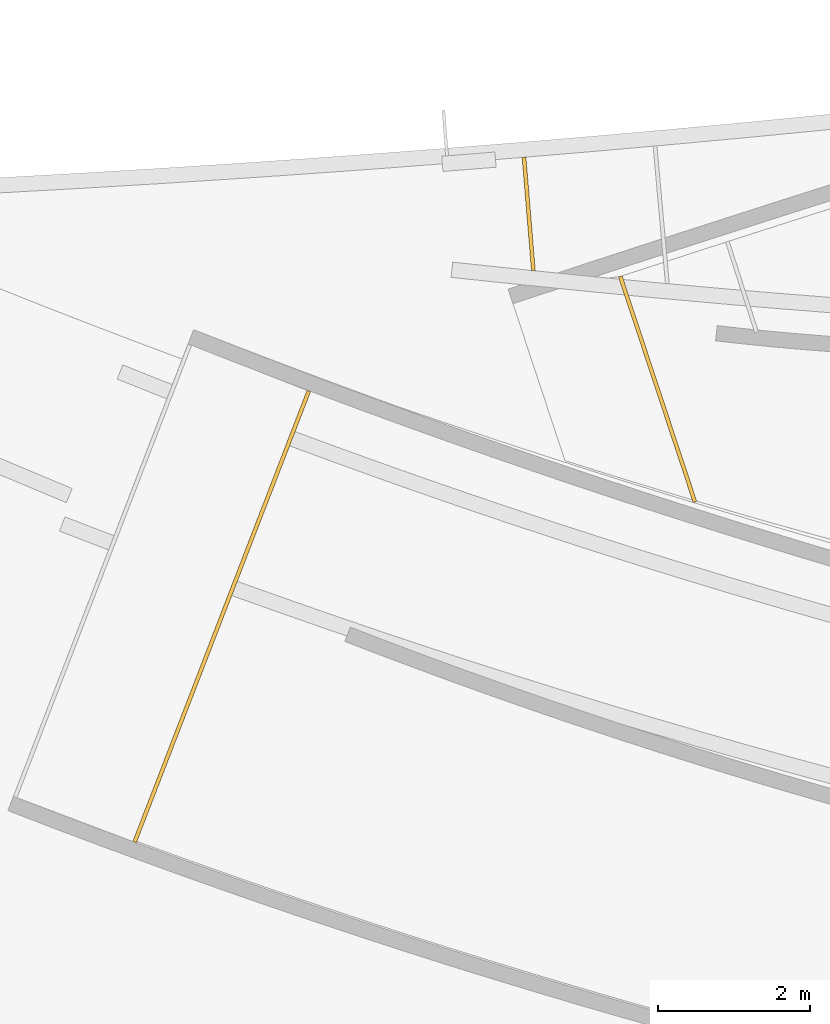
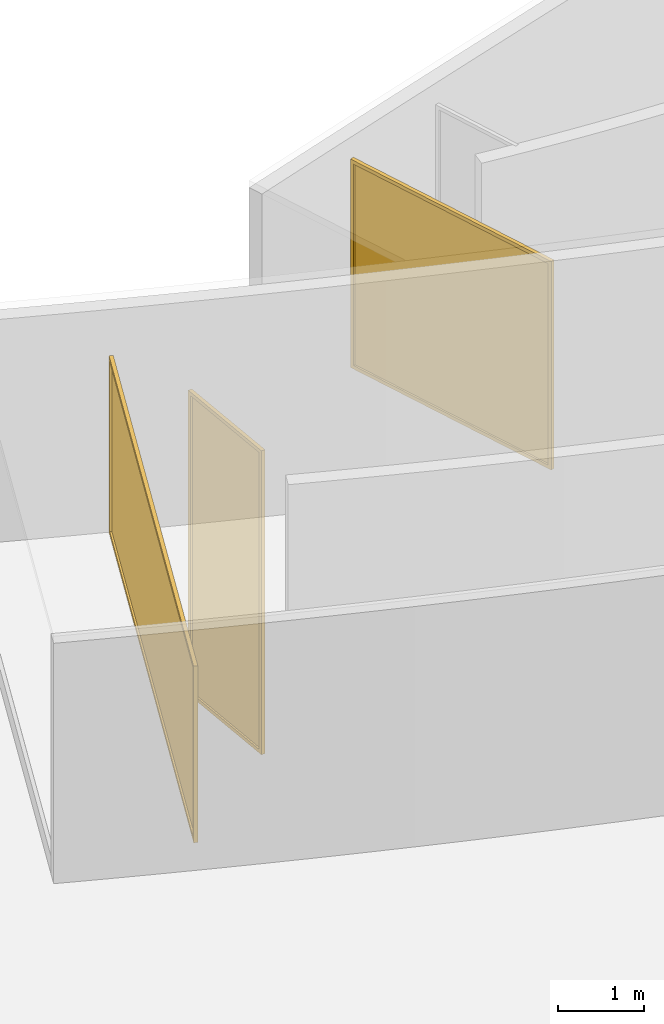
# Not in any storey, part 9 of 16: 3 curtain walls.
"""IFC2X3 model written with IfcOpenShell, lengths in millimetres."""

from ifc_helpers import new_model, entity, si_unit, converted_unit, direction, origin_with_axes, place, context, project, spatial, open_shell, faceted_brep, surface_model, source, transform, mapped, type_object, element, save


model = new_model("IFC2X3")

# Units and contexts
model_context = context("Model", 3, precision=1.0, world=origin_with_axes(), true_north=direction((0.0, 1.0)))
ifc_project = project(units=[converted_unit("PLANEANGLEUNIT", "DEGREE", entity("IfcRatioMeasure", 0.017453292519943), si_unit("PLANEANGLEUNIT", "RADIAN"), dimensions=[0, 0, 0, 0, 0, 0, 0]), si_unit("LENGTHUNIT", "METRE", prefix="MILLI")], contexts=[model_context])

# Site
site_placement = place(None, origin_with_axes())
site = spatial("IfcSite", under=ifc_project, at=site_placement, Name="Site", CompositionType="ELEMENT")

# Curtain walls
curtain_wall_type = type_object("IfcCurtainWallType", Name="Single Panel", PredefinedType="USERDEFINED")
shared_shape_1 = source(origin_with_axes(), model_context, "Body", "Brep", [
    faceted_brep([(-46210.36328125, -3783.9609375, 9020.0), (-46185.44921875, -3781.908203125, 9020.0), (-46160.53125, -3779.85522460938, 9020.0), (-46191.17578125, -3407.9453125, 9020.0), (-46221.81640625, -3036.03540039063, 9020.0), (-46252.45703125, -2664.12548828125, 9020.0), (-46283.09765625, -2292.21557617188, 9020.0), (-46308.015625, -2294.2685546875, 9020.0), (-46332.9296875, -2296.3212890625, 9020.0), (-46302.2890625, -2668.23120117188, 9020.0), (-46271.6484375, -3040.14111328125, 9020.0), (-46241.00390625, -3412.05102539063, 9020.0), (-46160.53125, -3779.85522460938, 8970.0), (-46185.44921875, -3781.908203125, 8970.0), (-46210.36328125, -3783.9609375, 8970.0), (-46214.46875, -3734.12963867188, 8970.0), (-46243.05859375, -3387.13549804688, 8970.0), (-46271.6484375, -3040.14111328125, 8970.0), (-46300.234375, -2693.14672851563, 8970.0), (-46328.82421875, -2346.15234375, 8970.0), (-46332.9296875, -2296.3212890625, 8970.0), (-46308.015625, -2294.2685546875, 8970.0), (-46283.09765625, -2292.21557617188, 8970.0), (-46278.9921875, -2342.046875, 8970.0), (-46250.40625, -2689.04125976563, 8970.0), (-46221.81640625, -3036.03540039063, 8970.0), (-46193.2265625, -3383.02978515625, 8970.0), (-46164.63671875, -3730.02416992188, 8970.0), (-46210.36328125, -3783.9609375, 8970.0), (-46210.36328125, -3783.9609375, 9020.0), (-46241.00390625, -3412.05102539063, 9020.0), (-46271.6484375, -3040.14111328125, 9020.0), (-46302.2890625, -2668.23120117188, 9020.0), (-46332.9296875, -2296.3212890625, 9020.0), (-46332.9296875, -2296.3212890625, 8970.0), (-46328.82421875, -2346.15234375, 8970.0), (-46300.234375, -2693.14672851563, 8970.0), (-46271.6484375, -3040.14111328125, 8970.0), (-46243.05859375, -3387.13549804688, 8970.0), (-46214.46875, -3734.12963867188, 8970.0), (-46160.53125, -3779.85522460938, 9020.0), (-46160.53125, -3779.85522460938, 8970.0), (-46164.63671875, -3730.02416992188, 8970.0), (-46193.2265625, -3383.02978515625, 8970.0), (-46221.81640625, -3036.03540039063, 8970.0), (-46250.40625, -2689.04125976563, 8970.0), (-46278.9921875, -2342.046875, 8970.0), (-46283.09765625, -2292.21557617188, 8970.0), (-46283.09765625, -2292.21557617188, 9020.0), (-46252.45703125, -2664.12548828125, 9020.0), (-46221.81640625, -3036.03540039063, 9020.0), (-46191.17578125, -3407.9453125, 9020.0), (-46332.9296875, -2296.3212890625, 8970.0), (-46332.9296875, -2296.3212890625, 9020.0), (-46308.015625, -2294.2685546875, 9020.0), (-46283.09765625, -2292.21557617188, 9020.0), (-46283.09765625, -2292.21557617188, 8970.0), (-46308.015625, -2294.2685546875, 8970.0), (-46210.36328125, -3783.9609375, 9020.0), (-46210.36328125, -3783.9609375, 8970.0), (-46185.44921875, -3781.908203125, 8970.0), (-46160.53125, -3779.85522460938, 8970.0), (-46160.53125, -3779.85522460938, 9020.0), (-46185.44921875, -3781.908203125, 9020.0)], [[[0, 1, 2, 3, 4, 5, 6, 7, 8, 9, 10, 11]], [[12, 13, 14, 15, 16, 17, 18, 19, 20, 21, 22, 23, 24, 25, 26, 27]], [[28, 29, 30, 31, 32, 33, 34, 35, 36, 37, 38, 39]], [[40, 41, 42, 43, 44, 45, 46, 47, 48, 49, 50, 51]], [[52, 53, 54, 55, 56, 57]], [[58, 59, 60, 61, 62, 63]]]),
    faceted_brep([(-46160.53125, -3779.85522460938, 4720.0), (-46185.44921875, -3781.908203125, 4720.0), (-46210.36328125, -3783.9609375, 4720.0), (-46241.00390625, -3412.05102539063, 4720.0), (-46271.6484375, -3040.14111328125, 4720.0), (-46302.2890625, -2668.23120117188, 4720.0), (-46332.9296875, -2296.3212890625, 4720.0), (-46308.015625, -2294.2685546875, 4720.0), (-46283.09765625, -2292.21557617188, 4720.0), (-46252.45703125, -2664.12548828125, 4720.0), (-46221.81640625, -3036.03540039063, 4720.0), (-46191.17578125, -3407.9453125, 4720.0), (-46210.36328125, -3783.9609375, 4770.0), (-46185.44921875, -3781.908203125, 4770.0), (-46160.53125, -3779.85522460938, 4770.0), (-46164.63671875, -3730.02416992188, 4770.0), (-46193.2265625, -3383.02978515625, 4770.0), (-46221.81640625, -3036.03540039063, 4770.0), (-46250.40625, -2689.04125976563, 4770.0), (-46278.9921875, -2342.046875, 4770.0), (-46283.09765625, -2292.21557617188, 4770.0), (-46308.015625, -2294.2685546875, 4770.0), (-46332.9296875, -2296.3212890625, 4770.0), (-46328.82421875, -2346.15234375, 4770.0), (-46300.234375, -2693.14672851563, 4770.0), (-46271.6484375, -3040.14111328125, 4770.0), (-46243.05859375, -3387.13549804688, 4770.0), (-46214.46875, -3734.12963867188, 4770.0), (-46160.53125, -3779.85522460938, 4770.0), (-46160.53125, -3779.85522460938, 4720.0), (-46191.17578125, -3407.9453125, 4720.0), (-46221.81640625, -3036.03540039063, 4720.0), (-46252.45703125, -2664.12548828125, 4720.0), (-46283.09765625, -2292.21557617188, 4720.0), (-46283.09765625, -2292.21557617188, 4770.0), (-46278.9921875, -2342.046875, 4770.0), (-46250.40625, -2689.04125976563, 4770.0), (-46221.81640625, -3036.03540039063, 4770.0), (-46193.2265625, -3383.02978515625, 4770.0), (-46164.63671875, -3730.02416992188, 4770.0), (-46283.09765625, -2292.21557617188, 4770.0), (-46283.09765625, -2292.21557617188, 4720.0), (-46308.015625, -2294.2685546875, 4720.0), (-46332.9296875, -2296.3212890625, 4720.0), (-46332.9296875, -2296.3212890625, 4770.0), (-46308.015625, -2294.2685546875, 4770.0), (-46210.36328125, -3783.9609375, 4720.0), (-46210.36328125, -3783.9609375, 4770.0), (-46214.46875, -3734.12963867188, 4770.0), (-46243.05859375, -3387.13549804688, 4770.0), (-46271.6484375, -3040.14111328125, 4770.0), (-46300.234375, -2693.14672851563, 4770.0), (-46328.82421875, -2346.15234375, 4770.0), (-46332.9296875, -2296.3212890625, 4770.0), (-46332.9296875, -2296.3212890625, 4720.0), (-46302.2890625, -2668.23120117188, 4720.0), (-46271.6484375, -3040.14111328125, 4720.0), (-46241.00390625, -3412.05102539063, 4720.0), (-46160.53125, -3779.85522460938, 4720.0), (-46160.53125, -3779.85522460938, 4770.0), (-46185.44921875, -3781.908203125, 4770.0), (-46210.36328125, -3783.9609375, 4770.0), (-46210.36328125, -3783.9609375, 4720.0), (-46185.44921875, -3781.908203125, 4720.0)], [[[0, 1, 2, 3, 4, 5, 6, 7, 8, 9, 10, 11]], [[12, 13, 14, 15, 16, 17, 18, 19, 20, 21, 22, 23, 24, 25, 26, 27]], [[28, 29, 30, 31, 32, 33, 34, 35, 36, 37, 38, 39]], [[40, 41, 42, 43, 44, 45]], [[46, 47, 48, 49, 50, 51, 52, 53, 54, 55, 56, 57]], [[58, 59, 60, 61, 62, 63]]]),
    faceted_brep([(-46214.46875, -3734.12963867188, 4770.0), (-46164.63671875, -3730.02416992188, 4770.0), (-46160.53125, -3779.85522460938, 4770.0), (-46185.44921875, -3781.908203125, 4770.0), (-46210.36328125, -3783.9609375, 4770.0), (-46164.63671875, -3730.02416992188, 4770.0), (-46214.46875, -3734.12963867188, 4770.0), (-46214.46875, -3734.12963867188, 6870.0), (-46214.46875, -3734.12963867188, 8970.0), (-46164.63671875, -3730.02416992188, 8970.0), (-46164.63671875, -3730.02416992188, 6870.0), (-46210.36328125, -3783.9609375, 4770.0), (-46185.44921875, -3781.908203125, 4770.0), (-46160.53125, -3779.85522460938, 4770.0), (-46160.53125, -3779.85522460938, 6870.0), (-46160.53125, -3779.85522460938, 8970.0), (-46185.44921875, -3781.908203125, 8970.0), (-46210.36328125, -3783.9609375, 8970.0), (-46210.36328125, -3783.9609375, 6870.0), (-46214.46875, -3734.12963867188, 4770.0), (-46210.36328125, -3783.9609375, 4770.0), (-46210.36328125, -3783.9609375, 6870.0), (-46210.36328125, -3783.9609375, 8970.0), (-46214.46875, -3734.12963867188, 8970.0), (-46214.46875, -3734.12963867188, 6870.0), (-46160.53125, -3779.85522460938, 4770.0), (-46164.63671875, -3730.02416992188, 4770.0), (-46164.63671875, -3730.02416992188, 6870.0), (-46164.63671875, -3730.02416992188, 8970.0), (-46160.53125, -3779.85522460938, 8970.0), (-46160.53125, -3779.85522460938, 6870.0), (-46164.63671875, -3730.02416992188, 8970.0), (-46214.46875, -3734.12963867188, 8970.0), (-46210.36328125, -3783.9609375, 8970.0), (-46185.44921875, -3781.908203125, 8970.0), (-46160.53125, -3779.85522460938, 8970.0)], [[[0, 1, 2, 3, 4]], [[5, 6, 7, 8, 9, 10]], [[11, 12, 13, 14, 15, 16, 17, 18]], [[19, 20, 21, 22, 23, 24]], [[25, 26, 27, 28, 29, 30]], [[31, 32, 33, 34, 35]]]),
    faceted_brep([(-46278.9921875, -2342.046875, 4770.0), (-46283.09765625, -2292.21557617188, 4770.0), (-46283.09765625, -2292.21557617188, 6870.0), (-46283.09765625, -2292.21557617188, 8970.0), (-46278.9921875, -2342.046875, 8970.0), (-46278.9921875, -2342.046875, 6870.0), (-46283.09765625, -2292.21557617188, 4770.0), (-46332.9296875, -2296.3212890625, 4770.0), (-46332.9296875, -2296.3212890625, 6870.0), (-46332.9296875, -2296.3212890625, 8970.0), (-46283.09765625, -2292.21557617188, 8970.0), (-46283.09765625, -2292.21557617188, 6870.0), (-46328.82421875, -2346.15234375, 4770.0), (-46278.9921875, -2342.046875, 4770.0), (-46278.9921875, -2342.046875, 6870.0), (-46278.9921875, -2342.046875, 8970.0), (-46328.82421875, -2346.15234375, 8970.0), (-46328.82421875, -2346.15234375, 6870.0), (-46332.9296875, -2296.3212890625, 4770.0), (-46328.82421875, -2346.15234375, 4770.0), (-46328.82421875, -2346.15234375, 6870.0), (-46328.82421875, -2346.15234375, 8970.0), (-46332.9296875, -2296.3212890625, 8970.0), (-46332.9296875, -2296.3212890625, 6870.0), (-46328.82421875, -2346.15234375, 8970.0), (-46278.9921875, -2342.046875, 8970.0), (-46283.09765625, -2292.21557617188, 8970.0), (-46332.9296875, -2296.3212890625, 8970.0), (-46278.9921875, -2342.046875, 4770.0), (-46328.82421875, -2346.15234375, 4770.0), (-46332.9296875, -2296.3212890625, 4770.0), (-46283.09765625, -2292.21557617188, 4770.0)], [[[0, 1, 2, 3, 4, 5]], [[6, 7, 8, 9, 10, 11]], [[12, 13, 14, 15, 16, 17]], [[18, 19, 20, 21, 22, 23]], [[24, 25, 26, 27]], [[28, 29, 30, 31]]]),
])
shared_shape_2 = source(origin_with_axes(), model_context, "Body", "SurfaceModel", [
    surface_model("IfcShellBasedSurfaceModel", [(0.0, 0.0, 4200.0), (0.0, 0.0, 0.0), (1392.68029785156, 0.0, 0.0), (1392.68029785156, 0.0, 4200.0)], [open_shell([[[0, 1, 2, 3]]])]),
])
shared_shape_3 = source(origin_with_axes(), model_context, "Body", "MappedRepresentation", [
    mapped(shared_shape_1, transform((0.0, 0.0, 0.0))),
    mapped(shared_shape_2, transform((-46189.5533571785, -3732.07693644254, 4770.0), x_axis=(-0.08211225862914, 0.99662308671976, 0.0), y_axis=(-0.99662308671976, -0.08211225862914, 0.0), scale=0.999999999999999)),
])
curtain_wall_1_placement = place(site_placement, origin_with_axes())
element("IfcCurtainWall", 1, at=curtain_wall_1_placement, inside=site, type_object=curtain_wall_type, ObjectType="Single Panel", context=model_context, shape_type="MappedRepresentation", body=[
    mapped(shared_shape_3, transform((0.0, 0.0, 0.0))),
])
shared_shape_4 = source(origin_with_axes(), model_context, "Body", "SurfaceModel", [
    surface_model("IfcShellBasedSurfaceModel", [(0.0, 0.0, 2850.0), (0.0, 0.0, 0.0), (3018.27905273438, 0.0, 0.0), (3018.27905273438, 0.0, 2850.0)], [open_shell([[[0, 1, 2, 3]]])]),
])
shared_shape_5 = source(origin_with_axes(), model_context, "Body", "Brep", [
    faceted_brep([(-45052.4375, -3913.07446289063, 9900.0), (-45004.96875, -3897.3662109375, 9900.0), (-45004.96875, -3897.3662109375, 11325.0), (-45004.96875, -3897.3662109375, 12750.0), (-45052.4375, -3913.07446289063, 12750.0), (-45052.4375, -3913.07446289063, 11325.0), (-45004.96875, -3897.3662109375, 9900.0), (-45012.8203125, -3873.63208007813, 9900.0), (-45020.67578125, -3849.89770507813, 9900.0), (-45020.67578125, -3849.89770507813, 11325.0), (-45020.67578125, -3849.89770507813, 12750.0), (-45012.8203125, -3873.63208007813, 12750.0), (-45004.96875, -3897.3662109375, 12750.0), (-45004.96875, -3897.3662109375, 11325.0), (-45052.4375, -3913.07446289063, 12750.0), (-45004.96875, -3897.3662109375, 12750.0), (-45012.8203125, -3873.63208007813, 12750.0), (-45020.67578125, -3849.89770507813, 12750.0), (-45068.14453125, -3865.60595703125, 12750.0), (-45060.2890625, -3889.34008789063, 12750.0), (-45020.67578125, -3849.89770507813, 9900.0), (-45068.14453125, -3865.60595703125, 9900.0), (-45068.14453125, -3865.60595703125, 11325.0), (-45068.14453125, -3865.60595703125, 12750.0), (-45020.67578125, -3849.89770507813, 12750.0), (-45020.67578125, -3849.89770507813, 11325.0), (-45068.14453125, -3865.60595703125, 9900.0), (-45060.2890625, -3889.34008789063, 9900.0), (-45052.4375, -3913.07446289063, 9900.0), (-45052.4375, -3913.07446289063, 11325.0), (-45052.4375, -3913.07446289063, 12750.0), (-45060.2890625, -3889.34008789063, 12750.0), (-45068.14453125, -3865.60595703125, 12750.0), (-45068.14453125, -3865.60595703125, 11325.0), (-45004.96875, -3897.3662109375, 9900.0), (-45052.4375, -3913.07446289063, 9900.0), (-45060.2890625, -3889.34008789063, 9900.0), (-45068.14453125, -3865.60595703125, 9900.0), (-45020.67578125, -3849.89770507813, 9900.0), (-45012.8203125, -3873.63208007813, 9900.0)], [[[0, 1, 2, 3, 4, 5]], [[6, 7, 8, 9, 10, 11, 12, 13]], [[14, 15, 16, 17, 18, 19]], [[20, 21, 22, 23, 24, 25]], [[26, 27, 28, 29, 30, 31, 32, 33]], [[34, 35, 36, 37, 38, 39]]]),
    faceted_brep([(-45020.67578125, -3849.89770507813, 9900.0), (-45068.14453125, -3865.60595703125, 9900.0), (-45052.4375, -3913.07446289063, 9900.0), (-44578.3203125, -5345.8046875, 9900.0), (-44104.203125, -6778.53466796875, 9900.0), (-44088.49609375, -6826.00341796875, 9900.0), (-44041.02734375, -6810.294921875, 9900.0), (-44056.734375, -6762.82666015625, 9900.0), (-44530.8515625, -5330.0966796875, 9900.0), (-45004.96875, -3897.3662109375, 9900.0), (-45068.14453125, -3865.60595703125, 9900.0), (-45068.14453125, -3865.60595703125, 9850.0), (-44578.3203125, -5345.8046875, 9850.0), (-44088.49609375, -6826.00341796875, 9850.0), (-44088.49609375, -6826.00341796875, 9900.0), (-44104.203125, -6778.53466796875, 9900.0), (-44578.3203125, -5345.8046875, 9900.0), (-45052.4375, -3913.07446289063, 9900.0), (-45068.14453125, -3865.60595703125, 9850.0), (-45020.67578125, -3849.89770507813, 9850.0), (-44530.8515625, -5330.0966796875, 9850.0), (-44041.02734375, -6810.294921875, 9850.0), (-44088.49609375, -6826.00341796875, 9850.0), (-44578.3203125, -5345.8046875, 9850.0), (-45068.14453125, -3865.60595703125, 9900.0), (-45020.67578125, -3849.89770507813, 9900.0), (-45020.67578125, -3849.89770507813, 9850.0), (-45068.14453125, -3865.60595703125, 9850.0), (-44041.02734375, -6810.294921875, 9900.0), (-44088.49609375, -6826.00341796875, 9900.0), (-44088.49609375, -6826.00341796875, 9850.0), (-44041.02734375, -6810.294921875, 9850.0), (-45020.67578125, -3849.89770507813, 9850.0), (-45020.67578125, -3849.89770507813, 9900.0), (-45004.96875, -3897.3662109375, 9900.0), (-44530.8515625, -5330.0966796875, 9900.0), (-44056.734375, -6762.82666015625, 9900.0), (-44041.02734375, -6810.294921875, 9900.0), (-44041.02734375, -6810.294921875, 9850.0), (-44530.8515625, -5330.0966796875, 9850.0)], [[[0, 1, 2, 3, 4, 5, 6, 7, 8, 9]], [[10, 11, 12, 13, 14, 15, 16, 17]], [[18, 19, 20, 21, 22, 23]], [[24, 25, 26, 27]], [[28, 29, 30, 31]], [[32, 33, 34, 35, 36, 37, 38, 39]]]),
    faceted_brep([(-44104.203125, -6778.53466796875, 9900.0), (-44088.49609375, -6826.00341796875, 9900.0), (-44088.49609375, -6826.00341796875, 11325.0), (-44088.49609375, -6826.00341796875, 12750.0), (-44104.203125, -6778.53466796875, 12750.0), (-44104.203125, -6778.53466796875, 11325.0), (-44088.49609375, -6826.00341796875, 9900.0), (-44041.02734375, -6810.294921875, 9900.0), (-44041.02734375, -6810.294921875, 11325.0), (-44041.02734375, -6810.294921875, 12750.0), (-44088.49609375, -6826.00341796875, 12750.0), (-44088.49609375, -6826.00341796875, 11325.0), (-44056.734375, -6762.82666015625, 9900.0), (-44080.46875, -6770.6806640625, 9900.0), (-44104.203125, -6778.53466796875, 9900.0), (-44104.203125, -6778.53466796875, 11325.0), (-44104.203125, -6778.53466796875, 12750.0), (-44080.46875, -6770.6806640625, 12750.0), (-44056.734375, -6762.82666015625, 12750.0), (-44056.734375, -6762.82666015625, 11325.0), (-44041.02734375, -6810.294921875, 9900.0), (-44056.734375, -6762.82666015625, 9900.0), (-44056.734375, -6762.82666015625, 11325.0), (-44056.734375, -6762.82666015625, 12750.0), (-44041.02734375, -6810.294921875, 12750.0), (-44041.02734375, -6810.294921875, 11325.0), (-44104.203125, -6778.53466796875, 12750.0), (-44088.49609375, -6826.00341796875, 12750.0), (-44041.02734375, -6810.294921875, 12750.0), (-44056.734375, -6762.82666015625, 12750.0), (-44080.46875, -6770.6806640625, 12750.0), (-44088.49609375, -6826.00341796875, 9900.0), (-44104.203125, -6778.53466796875, 9900.0), (-44080.46875, -6770.6806640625, 9900.0), (-44056.734375, -6762.82666015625, 9900.0), (-44041.02734375, -6810.294921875, 9900.0)], [[[0, 1, 2, 3, 4, 5]], [[6, 7, 8, 9, 10, 11]], [[12, 13, 14, 15, 16, 17, 18, 19]], [[20, 21, 22, 23, 24, 25]], [[26, 27, 28, 29, 30]], [[31, 32, 33, 34, 35]]]),
    faceted_brep([(-45020.67578125, -3849.89770507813, 12750.0), (-45020.67578125, -3849.89770507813, 12800.0), (-44530.8515625, -5330.0966796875, 12800.0), (-44041.02734375, -6810.294921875, 12800.0), (-44041.02734375, -6810.294921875, 12750.0), (-44056.734375, -6762.82666015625, 12750.0), (-44530.8515625, -5330.0966796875, 12750.0), (-45004.96875, -3897.3662109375, 12750.0), (-45020.67578125, -3849.89770507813, 12750.0), (-45068.14453125, -3865.60595703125, 12750.0), (-45068.14453125, -3865.60595703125, 12800.0), (-45020.67578125, -3849.89770507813, 12800.0), (-45068.14453125, -3865.60595703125, 12800.0), (-45068.14453125, -3865.60595703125, 12750.0), (-45052.4375, -3913.07446289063, 12750.0), (-44578.3203125, -5345.8046875, 12750.0), (-44104.203125, -6778.53466796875, 12750.0), (-44088.49609375, -6826.00341796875, 12750.0), (-44088.49609375, -6826.00341796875, 12800.0), (-44578.3203125, -5345.8046875, 12800.0), (-44088.49609375, -6826.00341796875, 12750.0), (-44041.02734375, -6810.294921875, 12750.0), (-44041.02734375, -6810.294921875, 12800.0), (-44088.49609375, -6826.00341796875, 12800.0), (-45068.14453125, -3865.60595703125, 12750.0), (-45020.67578125, -3849.89770507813, 12750.0), (-45004.96875, -3897.3662109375, 12750.0), (-44530.8515625, -5330.0966796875, 12750.0), (-44056.734375, -6762.82666015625, 12750.0), (-44041.02734375, -6810.294921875, 12750.0), (-44088.49609375, -6826.00341796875, 12750.0), (-44104.203125, -6778.53466796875, 12750.0), (-44578.3203125, -5345.8046875, 12750.0), (-45052.4375, -3913.07446289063, 12750.0), (-45020.67578125, -3849.89770507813, 12800.0), (-45068.14453125, -3865.60595703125, 12800.0), (-44578.3203125, -5345.8046875, 12800.0), (-44088.49609375, -6826.00341796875, 12800.0), (-44041.02734375, -6810.294921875, 12800.0), (-44530.8515625, -5330.0966796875, 12800.0)], [[[0, 1, 2, 3, 4, 5, 6, 7]], [[8, 9, 10, 11]], [[12, 13, 14, 15, 16, 17, 18, 19]], [[20, 21, 22, 23]], [[24, 25, 26, 27, 28, 29, 30, 31, 32, 33]], [[34, 35, 36, 37, 38, 39]]]),
])
shared_shape_6 = source(origin_with_axes(), model_context, "Body", "MappedRepresentation", [
    mapped(shared_shape_4, transform((-45028.7021110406, -3905.22032458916, 9899.99999999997), x_axis=(0.314163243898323, -0.94936897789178, 0.0), y_axis=(0.94936897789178, 0.314163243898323, 0.0))),
    mapped(shared_shape_5, transform((0.0, 0.0, 0.0))),
])
curtain_wall_2_placement = place(site_placement, origin_with_axes())
element("IfcCurtainWall", 2, at=curtain_wall_2_placement, inside=site, type_object=curtain_wall_type, ObjectType="Single Panel", context=model_context, shape_type="MappedRepresentation", body=[
    mapped(shared_shape_6, transform((0.0, 0.0, 0.0))),
])
shared_shape_7 = source(origin_with_axes(), model_context, "Body", "SurfaceModel", [
    surface_model("IfcShellBasedSurfaceModel", [(0.0, 0.0, 2400.0), (0.0, 0.0, 0.0), (6247.0693359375, 0.0, 0.0), (6247.0693359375, 0.0, 2400.0)], [open_shell([[[0, 1, 2, 3]]])]),
])
shared_shape_8 = source(origin_with_axes(), model_context, "Body", "Brep", [
    faceted_brep([(-51425.45703125, -11228.0224609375, 9900.0), (-51378.8125, -11246.03515625, 9900.0), (-51387.8203125, -11269.3564453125, 9900.0), (-51396.828125, -11292.677734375, 9900.0), (-51420.1484375, -11283.671875, 9900.0), (-51443.46875, -11274.666015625, 9900.0), (-51434.46484375, -11251.34375, 9900.0), (-51425.45703125, -11228.0224609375, 9900.0), (-51434.46484375, -11251.34375, 9900.0), (-51443.46875, -11274.666015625, 9900.0), (-51443.46875, -11274.666015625, 11100.0), (-51443.46875, -11274.666015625, 12300.0), (-51434.46484375, -11251.34375, 12300.0), (-51425.45703125, -11228.0224609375, 12300.0), (-51425.45703125, -11228.0224609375, 11100.0), (-51378.8125, -11246.03515625, 9900.0), (-51425.45703125, -11228.0224609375, 9900.0), (-51425.45703125, -11228.0224609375, 11100.0), (-51425.45703125, -11228.0224609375, 12300.0), (-51378.8125, -11246.03515625, 12300.0), (-51378.8125, -11246.03515625, 11100.0), (-51378.8125, -11246.03515625, 12300.0), (-51425.45703125, -11228.0224609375, 12300.0), (-51434.46484375, -11251.34375, 12300.0), (-51443.46875, -11274.666015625, 12300.0), (-51420.1484375, -11283.671875, 12300.0), (-51396.828125, -11292.677734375, 12300.0), (-51387.8203125, -11269.3564453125, 12300.0), (-51443.46875, -11274.666015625, 9900.0), (-51420.1484375, -11283.671875, 9900.0), (-51396.828125, -11292.677734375, 9900.0), (-51396.828125, -11292.677734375, 11100.0), (-51396.828125, -11292.677734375, 12300.0), (-51420.1484375, -11283.671875, 12300.0), (-51443.46875, -11274.666015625, 12300.0), (-51443.46875, -11274.666015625, 11100.0), (-51396.828125, -11292.677734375, 9900.0), (-51387.8203125, -11269.3564453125, 9900.0), (-51378.8125, -11246.03515625, 9900.0), (-51378.8125, -11246.03515625, 11100.0), (-51378.8125, -11246.03515625, 12300.0), (-51387.8203125, -11269.3564453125, 12300.0), (-51396.828125, -11292.677734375, 12300.0), (-51396.828125, -11292.677734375, 11100.0)], [[[0, 1, 2, 3, 4, 5, 6]], [[7, 8, 9, 10, 11, 12, 13, 14]], [[15, 16, 17, 18, 19, 20]], [[21, 22, 23, 24, 25, 26, 27]], [[28, 29, 30, 31, 32, 33, 34, 35]], [[36, 37, 38, 39, 40, 41, 42, 43]]]),
    faceted_brep([(-49174.9453125, -5400.41015625, 9900.0), (-49128.30078125, -5418.42236328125, 9900.0), (-49128.30078125, -5418.42236328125, 11100.0), (-49128.30078125, -5418.42236328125, 12300.0), (-49174.9453125, -5400.41015625, 12300.0), (-49174.9453125, -5400.41015625, 11100.0), (-49128.30078125, -5418.42236328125, 9900.0), (-49119.296875, -5395.10107421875, 9900.0), (-49110.2890625, -5371.77978515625, 9900.0), (-49110.2890625, -5371.77978515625, 11100.0), (-49110.2890625, -5371.77978515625, 12300.0), (-49119.296875, -5395.10107421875, 12300.0), (-49128.30078125, -5418.42236328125, 12300.0), (-49128.30078125, -5418.42236328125, 11100.0), (-49174.9453125, -5400.41015625, 12300.0), (-49128.30078125, -5418.42236328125, 12300.0), (-49119.296875, -5395.10107421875, 12300.0), (-49110.2890625, -5371.77978515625, 12300.0), (-49156.93359375, -5353.76708984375, 12300.0), (-49165.9375, -5377.0888671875, 12300.0), (-49156.93359375, -5353.76708984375, 9900.0), (-49165.9375, -5377.0888671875, 9900.0), (-49174.9453125, -5400.41015625, 9900.0), (-49174.9453125, -5400.41015625, 11100.0), (-49174.9453125, -5400.41015625, 12300.0), (-49165.9375, -5377.0888671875, 12300.0), (-49156.93359375, -5353.76708984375, 12300.0), (-49156.93359375, -5353.76708984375, 11100.0), (-49128.30078125, -5418.42236328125, 9900.0), (-49174.9453125, -5400.41015625, 9900.0), (-49165.9375, -5377.0888671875, 9900.0), (-49156.93359375, -5353.76708984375, 9900.0), (-49110.2890625, -5371.77978515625, 9900.0), (-49119.296875, -5395.10107421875, 9900.0), (-49110.2890625, -5371.77978515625, 9900.0), (-49156.93359375, -5353.76708984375, 9900.0), (-49156.93359375, -5353.76708984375, 11100.0), (-49156.93359375, -5353.76708984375, 12300.0), (-49110.2890625, -5371.77978515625, 12300.0), (-49110.2890625, -5371.77978515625, 11100.0)], [[[0, 1, 2, 3, 4, 5]], [[6, 7, 8, 9, 10, 11, 12, 13]], [[14, 15, 16, 17, 18, 19]], [[20, 21, 22, 23, 24, 25, 26, 27]], [[28, 29, 30, 31, 32, 33]], [[34, 35, 36, 37, 38, 39]]]),
    faceted_brep([(-49110.2890625, -5371.77978515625, 12300.0), (-49110.2890625, -5371.77978515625, 12350.0), (-50253.55859375, -8332.228515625, 12350.0), (-51396.828125, -11292.677734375, 12350.0), (-51396.828125, -11292.677734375, 12300.0), (-51378.8125, -11246.03515625, 12300.0), (-50253.55859375, -8332.228515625, 12300.0), (-49128.30078125, -5418.42236328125, 12300.0), (-49110.2890625, -5371.77978515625, 12350.0), (-49156.93359375, -5353.76708984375, 12350.0), (-50300.19921875, -8314.216796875, 12350.0), (-51443.46875, -11274.666015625, 12350.0), (-51396.828125, -11292.677734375, 12350.0), (-50253.55859375, -8332.228515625, 12350.0), (-49110.2890625, -5371.77978515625, 12300.0), (-49156.93359375, -5353.76708984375, 12300.0), (-49156.93359375, -5353.76708984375, 12350.0), (-49110.2890625, -5371.77978515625, 12350.0), (-49156.93359375, -5353.76708984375, 12350.0), (-49156.93359375, -5353.76708984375, 12300.0), (-49174.9453125, -5400.41015625, 12300.0), (-50300.19921875, -8314.216796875, 12300.0), (-51425.45703125, -11228.0224609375, 12300.0), (-51443.46875, -11274.666015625, 12300.0), (-51443.46875, -11274.666015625, 12350.0), (-50300.19921875, -8314.216796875, 12350.0), (-49156.93359375, -5353.76708984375, 12300.0), (-49110.2890625, -5371.77978515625, 12300.0), (-49128.30078125, -5418.42236328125, 12300.0), (-50253.55859375, -8332.228515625, 12300.0), (-51378.8125, -11246.03515625, 12300.0), (-51396.828125, -11292.677734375, 12300.0), (-51443.46875, -11274.666015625, 12300.0), (-51425.45703125, -11228.0224609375, 12300.0), (-50300.19921875, -8314.216796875, 12300.0), (-49174.9453125, -5400.41015625, 12300.0), (-51443.46875, -11274.666015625, 12300.0), (-51396.828125, -11292.677734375, 12300.0), (-51396.828125, -11292.677734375, 12350.0), (-51443.46875, -11274.666015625, 12350.0)], [[[0, 1, 2, 3, 4, 5, 6, 7]], [[8, 9, 10, 11, 12, 13]], [[14, 15, 16, 17]], [[18, 19, 20, 21, 22, 23, 24, 25]], [[26, 27, 28, 29, 30, 31, 32, 33, 34, 35]], [[36, 37, 38, 39]]]),
    faceted_brep([(-49156.93359375, -5353.76708984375, 9900.0), (-49156.93359375, -5353.76708984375, 9850.0), (-50300.19921875, -8314.216796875, 9850.0), (-51443.46875, -11274.666015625, 9850.0), (-51443.46875, -11274.666015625, 9900.0), (-51425.45703125, -11228.0224609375, 9900.0), (-50300.19921875, -8314.216796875, 9900.0), (-49174.9453125, -5400.41015625, 9900.0), (-49156.93359375, -5353.76708984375, 9850.0), (-49133.609375, -5362.7734375, 9850.0), (-49110.2890625, -5371.77978515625, 9850.0), (-50253.55859375, -8332.228515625, 9850.0), (-51396.828125, -11292.677734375, 9850.0), (-51420.1484375, -11283.671875, 9850.0), (-51443.46875, -11274.666015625, 9850.0), (-50300.19921875, -8314.216796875, 9850.0), (-49156.93359375, -5353.76708984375, 9850.0), (-49156.93359375, -5353.76708984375, 9900.0), (-49133.609375, -5362.7734375, 9900.0), (-49110.2890625, -5371.77978515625, 9900.0), (-49110.2890625, -5371.77978515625, 9850.0), (-49133.609375, -5362.7734375, 9850.0), (-49110.2890625, -5371.77978515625, 9850.0), (-49110.2890625, -5371.77978515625, 9900.0), (-49128.30078125, -5418.42236328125, 9900.0), (-50253.55859375, -8332.228515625, 9900.0), (-51378.8125, -11246.03515625, 9900.0), (-51396.828125, -11292.677734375, 9900.0), (-51396.828125, -11292.677734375, 9850.0), (-50253.55859375, -8332.228515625, 9850.0), (-51443.46875, -11274.666015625, 9900.0), (-51443.46875, -11274.666015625, 9850.0), (-51420.1484375, -11283.671875, 9850.0), (-51396.828125, -11292.677734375, 9850.0), (-51396.828125, -11292.677734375, 9900.0), (-51420.1484375, -11283.671875, 9900.0), (-49110.2890625, -5371.77978515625, 9900.0), (-49133.609375, -5362.7734375, 9900.0), (-49156.93359375, -5353.76708984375, 9900.0), (-49174.9453125, -5400.41015625, 9900.0), (-50300.19921875, -8314.216796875, 9900.0), (-51425.45703125, -11228.0224609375, 9900.0), (-51443.46875, -11274.666015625, 9900.0), (-51420.1484375, -11283.671875, 9900.0), (-51396.828125, -11292.677734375, 9900.0), (-51378.8125, -11246.03515625, 9900.0), (-50253.55859375, -8332.228515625, 9900.0), (-49128.30078125, -5418.42236328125, 9900.0)], [[[0, 1, 2, 3, 4, 5, 6, 7]], [[8, 9, 10, 11, 12, 13, 14, 15]], [[16, 17, 18, 19, 20, 21]], [[22, 23, 24, 25, 26, 27, 28, 29]], [[30, 31, 32, 33, 34, 35]], [[36, 37, 38, 39, 40, 41, 42, 43, 44, 45, 46, 47]]]),
])
shared_shape_9 = source(origin_with_axes(), model_context, "Body", "MappedRepresentation", [
    mapped(shared_shape_7, transform((-49151.6233799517, -5409.41628114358, 9900.0), x_axis=(-0.360250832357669, -0.932855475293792, 0.0), y_axis=(0.932855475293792, -0.360250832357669, 0.0), scale=1.0)),
    mapped(shared_shape_8, transform((0.0, 0.0, 0.0))),
])
curtain_wall_3_placement = place(site_placement, origin_with_axes())
element("IfcCurtainWall", 3, at=curtain_wall_3_placement, inside=site, type_object=curtain_wall_type, ObjectType="Single Panel", context=model_context, shape_type="MappedRepresentation", body=[
    mapped(shared_shape_9, transform((0.0, 0.0, 0.0))),
])

save(model, "model.ifc")
